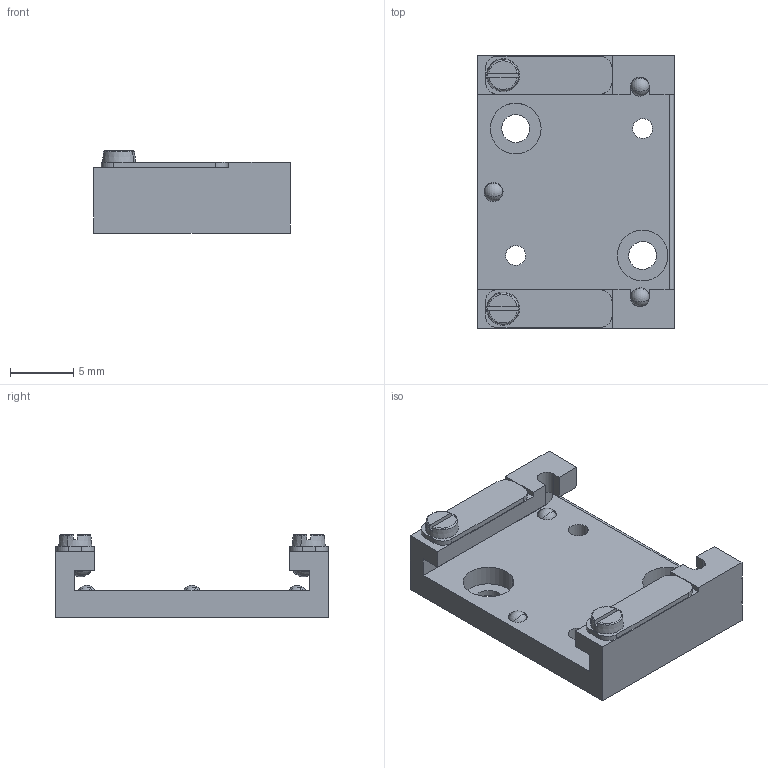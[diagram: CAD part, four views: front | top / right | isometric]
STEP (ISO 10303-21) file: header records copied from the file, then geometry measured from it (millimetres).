
FILE_DESCRIPTION(('CATIA V5 STEP Exchange','CAx-IF Rec.Pracs.--- Model Styling and Organization---1.2---2011-12-15'),'2;1');
FILE_NAME('W:\KONSTRUKTION\PRODUCTS\REC\RECOM\RECOM3S\RECOM3S_Rev_A.stp','2022-05-24T12:40:09+00:00',('none'),('none'),'CATIA Version 5 Release 21 SP 6 (IN-10)','CATIA V5 STEP AP214 Edition 3','none');
FILE_SCHEMA(('AUTOMOTIVE_DESIGN { 1 0 10303 214 3 1 1 1 }'));
Length unit declared in the file: millimetre
Products named in the file (1): RECOM3S
Bounding box: 15.5 x 21.5 x 6.5 mm (x, y, z)
Volume: 897.7 mm3; surface area: 1328.6 mm2
Topology: 2 solids, 5 shells, 212 faces, 558 edges, 326 vertices
Faces by surface type: cylinder 77, plane 54, sphere 34, cone 31, torus 16
Entity records: 6781 total; most frequent: CARTESIAN_POINT 2014, ORIENTED_EDGE 1084, DIRECTION 745, EDGE_CURVE 518, AXIS2_PLACEMENT_3D 363, VERTEX_POINT 326, EDGE_LOOP 250, VECTOR 220
